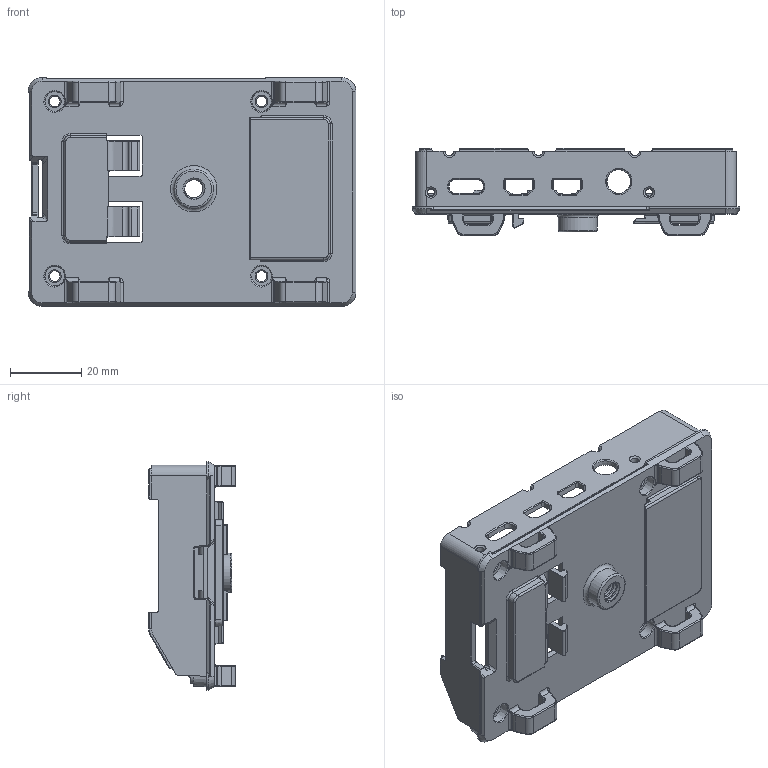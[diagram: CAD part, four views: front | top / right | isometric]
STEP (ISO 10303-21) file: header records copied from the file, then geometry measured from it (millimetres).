
FILE_DESCRIPTION(/* description */ (''),/* implementation_level */ '2;1');
FILE_NAME(/* name */ 'C:/Users/meono/Desktop/BOTTOM-DIN-VELCRO-1.4MNT STP.step',/* time_stamp */ '2021-01-25T11:12:04+01:00',/* author */ (''),/* organization */ (''),/* preprocessor_version */ 'ST-DEVELOPER v18.1',/* originating_system */ 'Autodesk Translation Framework v9.7.1.1290',/* authorisation */ '');
FILE_SCHEMA (('AUTOMOTIVE_DESIGN { 1 0 10303 214 3 1 1 }'));
Length unit declared in the file: millimetre
Products named in the file (2): BOTTOM-OTHER-ID_ASM; BOTTOM_OTHER-ID-2020-925
Assembly tree (1 placements, depth 2):
  BOTTOM-OTHER-ID_ASM
    BOTTOM_OTHER-ID-2020-925
Bounding box: 92 x 24.38 x 64.2 mm (x, y, z)
Volume: 18070.1 mm3; surface area: 20761.3 mm2
Topology: 1 solids, 1 shells, 1050 faces, 2703 edges, 1628 vertices
Faces by surface type: cylinder 373, plane 305, torus 125, bspline 117, cone 106, sphere 24
Full cylindrical faces by diameter (mm): 3 x4, 5.1 x4, 5.5 x1, 11 x1
Entity records: 41749 total; most frequent: CARTESIAN_POINT 16600, ORIENTED_EDGE 5372, DIRECTION 5264, EDGE_CURVE 2686, AXIS2_PLACEMENT_3D 1973, VERTEX_POINT 1628, LINE 1318, VECTOR 1318
